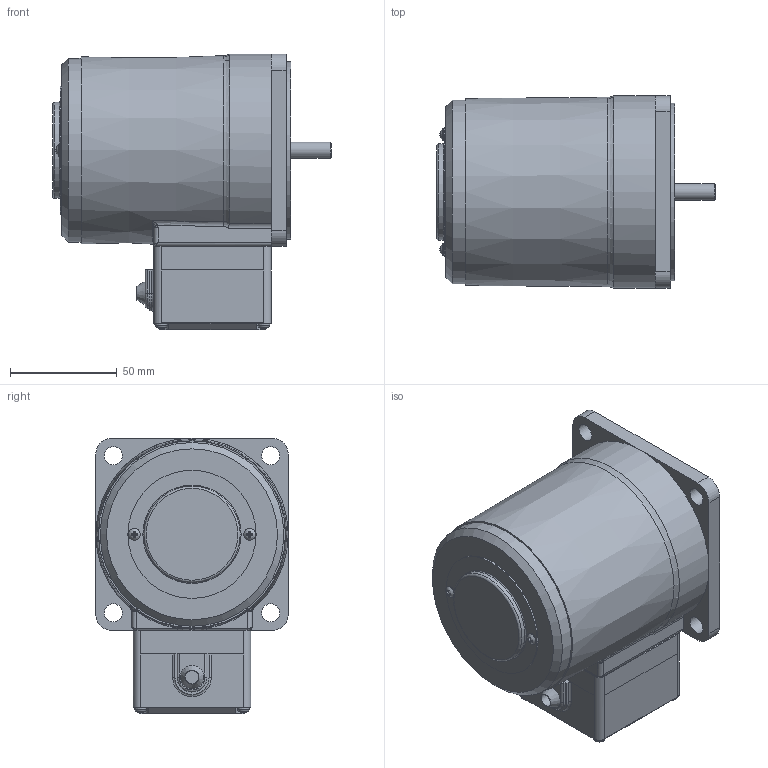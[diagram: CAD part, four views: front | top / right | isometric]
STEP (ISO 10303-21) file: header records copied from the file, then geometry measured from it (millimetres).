
FILE_DESCRIPTION(/* description */ (''),/* implementation_level */ '2;1');
FILE_NAME(/* name */ 'E:\도면작업\2016\0704) 미주향 SG 도면\3D MOTOR\TERMINAL BOX TYPE\REVERSIBLE TERMINAL BOX\SG9R40G_-T1.stp',/* time_stamp */ '2017-01-24T11:26:04+09:00',/* author */ ('jy-jung'),/* organization */ (''),/* preprocessor_version */ 'ST-DEVELOPER v15.6',/* originating_system */ 'Autodesk Inventor 2015',/* authorisation */ '');
FILE_SCHEMA (('AUTOMOTIVE_DESIGN { 1 0 10303 214 3 1 1 }'));
Length unit declared in the file: millimetre
Products named in the file (1): 부품1
Bounding box: 130.4 x 90 x 129 mm (x, y, z)
Volume: 779566.7 mm3; surface area: 62228.5 mm2
Topology: 1 solids, 5 shells, 307 faces, 796 edges, 511 vertices
Faces by surface type: plane 147, cylinder 60, cone 44, torus 32, bspline 20, sphere 4
Full cylindrical faces by diameter (mm): 3 x2, 3.5 x2, 5.6 x2, 7.62 x1, 8 x1, 8.5 x4, 40 x1, 43 x1, 45 x1, 60 x1, 83 x1, 86 x1
Entity records: 10326 total; most frequent: CARTESIAN_POINT 2964, ORIENTED_EDGE 1476, DIRECTION 1445, EDGE_CURVE 738, AXIS2_PLACEMENT_3D 557, VERTEX_POINT 499, EDGE_LOOP 377, LINE 331
